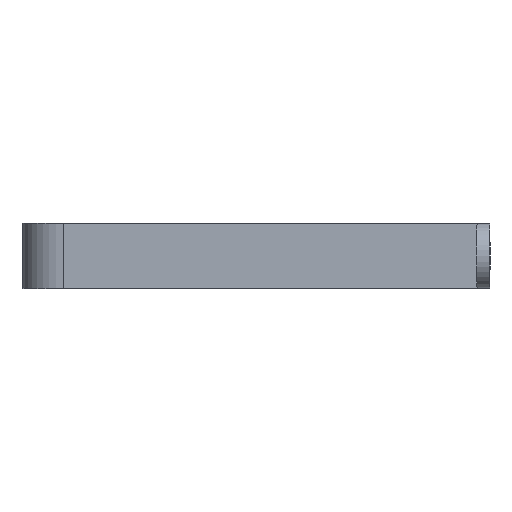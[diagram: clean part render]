
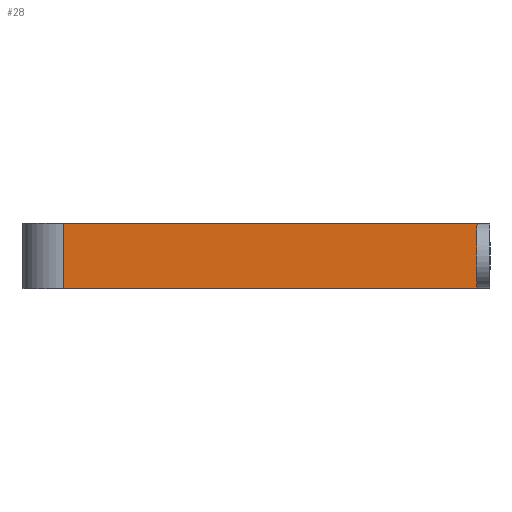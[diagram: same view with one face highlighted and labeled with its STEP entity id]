
A CAD part, front view. The second image highlights one B-rep face of the part: STEP entity #28.
In plain terms, the highlighted planar face has unit normal (0, -1, 0).
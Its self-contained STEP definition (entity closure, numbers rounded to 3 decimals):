
#4 = CARTESIAN_POINT ( 'NONE',  ( -159., 0., 12.5 ) ) ;
#9 = DIRECTION ( 'NONE',  ( 1., 0., 0. ) ) ;
#28 = ADVANCED_FACE ( 'NONE', ( #411 ), #1031, .T. ) ;
#73 = DIRECTION ( 'NONE',  ( 0., 0., -1. ) ) ;
#79 = CARTESIAN_POINT ( 'NONE',  ( -159., 0., -12.5 ) ) ;
#153 = VECTOR ( 'NONE', #844, 1000. ) ;
#155 = LINE ( 'NONE', #833, #153 ) ;
#177 = VECTOR ( 'NONE', #950, 1000. ) ;
#180 = LINE ( 'NONE', #941, #177 ) ;
#222 = VECTOR ( 'NONE', #9, 1000. ) ;
#227 = LINE ( 'NONE', #4, #222 ) ;
#231 = VECTOR ( 'NONE', #73, 1000. ) ;
#249 = LINE ( 'NONE', #79, #231 ) ;
#254 = DIRECTION ( 'NONE',  ( 0., -1., 0. ) ) ;
#263 = CARTESIAN_POINT ( 'NONE',  ( 0., 0., 12.5 ) ) ;
#289 = CARTESIAN_POINT ( 'NONE',  ( -159., 0., -12.5 ) ) ;
#411 = FACE_OUTER_BOUND ( 'NONE', #1013, .T. ) ;
#582 = VERTEX_POINT ( 'NONE', #885 ) ;
#616 = AXIS2_PLACEMENT_3D ( 'NONE', #641, #254, #884 ) ;
#622 = VERTEX_POINT ( 'NONE', #784 ) ;
#641 = CARTESIAN_POINT ( 'NONE',  ( -159., 0., -12.5 ) ) ;
#677 = VERTEX_POINT ( 'NONE', #289 ) ;
#684 = VERTEX_POINT ( 'NONE', #263 ) ;
#709 = EDGE_CURVE ( 'NONE', #622, #677, #249, .T. ) ;
#722 = EDGE_CURVE ( 'NONE', #622, #684, #227, .T. ) ;
#778 = EDGE_CURVE ( 'NONE', #677, #582, #180, .T. ) ;
#784 = CARTESIAN_POINT ( 'NONE',  ( -159., 0., 12.5 ) ) ;
#801 = EDGE_CURVE ( 'NONE', #684, #582, #155, .T. ) ;
#833 = CARTESIAN_POINT ( 'NONE',  ( 0., 0., -12.5 ) ) ;
#844 = DIRECTION ( 'NONE',  ( 0., 0., -1. ) ) ;
#884 = DIRECTION ( 'NONE',  ( 1., 0., 0. ) ) ;
#885 = CARTESIAN_POINT ( 'NONE',  ( 0., 0., -12.5 ) ) ;
#939 = ORIENTED_EDGE ( 'NONE', *, *, #722, .F. ) ;
#941 = CARTESIAN_POINT ( 'NONE',  ( -159., 0., -12.5 ) ) ;
#950 = DIRECTION ( 'NONE',  ( 1., 0., 0. ) ) ;
#966 = ORIENTED_EDGE ( 'NONE', *, *, #709, .T. ) ;
#990 = ORIENTED_EDGE ( 'NONE', *, *, #801, .F. ) ;
#999 = ORIENTED_EDGE ( 'NONE', *, *, #778, .T. ) ;
#1013 = EDGE_LOOP ( 'NONE', ( #990, #939, #966, #999 ) ) ;
#1031 = PLANE ( 'NONE',  #616 ) ;
